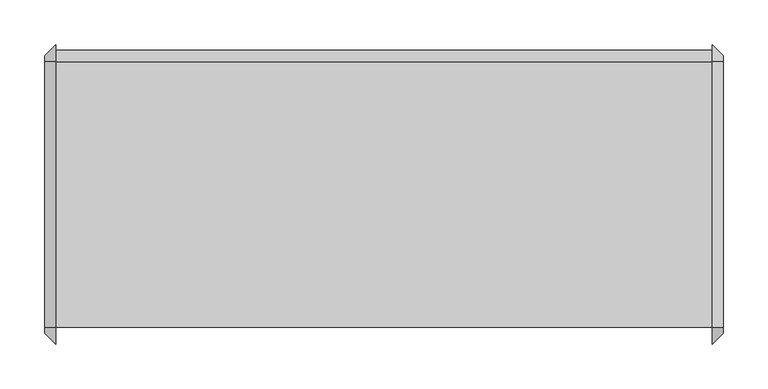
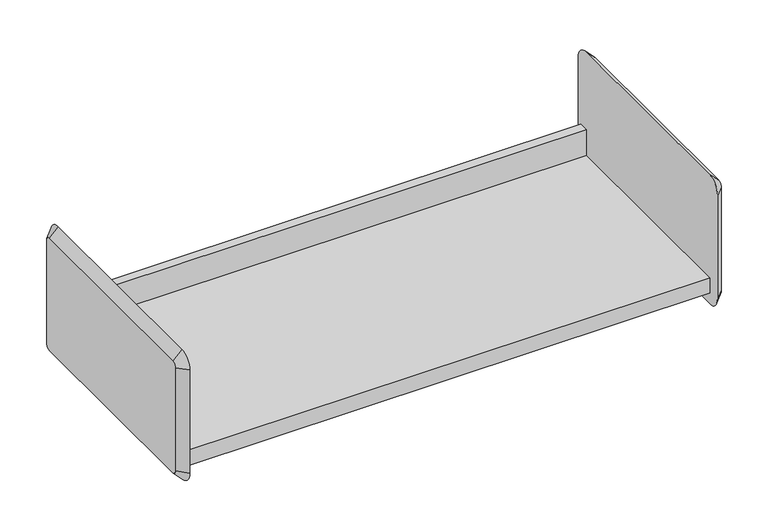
"""IFC4 building model written with IfcOpenShell, lengths in millimetres: furniture geometry."""

from ifc_helpers import new_model, si_unit, frame, origin, place, context, project, spatial, polyline, circle_curve, outline, extrude, source, transform, mapped, element, save
from ifc_brep_helpers import plane_surface, revolved_surface, advanced_brep


def furniture_7e3bf245(model_context):
    return source(origin(), model_context, "Body", "SolidModel", [
        extrude(outline(polyline([(-136.525, 1270.0), (161.925, 1270.0), (161.925, 1308.1), (174.625, 1308.1), (174.625, 1304.925), (165.1, 1304.925), (165.1, 1266.825), (-133.35, 1266.825), (-133.35, 1247.775), (-136.525, 1247.775), (-136.525, 1270.0)])), frame((-492.2420045, 0.0, 0.0), z_axis=(1.0, 0.0, 0.0), x_axis=(0.0, 1.0, 0.0)), (0.0, 0.0, 1.0), 736.6),
        advanced_brep(
        [(257.0579955, 161.925, 1409.7), (257.0579955, -136.525, 1409.7), (257.0579955, -142.875, 1403.35), (257.0579955, -142.875, 1250.95), (257.0579955, -136.525, 1244.6), (257.0579955, 161.925, 1244.6), (257.0579955, 168.275, 1250.95), (257.0579955, 168.275, 1403.35), (244.3579955, 161.925, 1422.4), (244.3579955, 180.975, 1403.35), (244.3579955, 180.975, 1250.95), (244.3579955, 161.925, 1231.9), (244.3579955, -136.525, 1231.9), (244.3579955, -155.575, 1250.95), (244.3579955, -155.575, 1403.35), (244.3579955, -136.525, 1422.4)],
        [
            (0, 1),
            (1, 2, circle_curve(frame((257.0579955, -136.525, 1403.35), z_axis=(1.0, 2.0730084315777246e-12, -2.1529444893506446e-12), x_axis=(2.15291077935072e-12, 0.0, 1.0)), 6.35)),
            (2, 3),
            (3, 4, circle_curve(frame((257.0579955, -136.525, 1250.95), z_axis=(1.0, 2.0596857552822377e-12, 2.06767936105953e-12), x_axis=(2.059647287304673e-12, -1.0, 0.0)), 6.35)),
            (4, 5),
            (5, 6, circle_curve(frame((257.0579955, 161.925, 1250.95), z_axis=(1.0, 2.0889956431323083e-12, -2.0889956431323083e-12), x_axis=(-2.0890080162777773e-12, 0.0, -1.0)), 6.35)),
            (6, 7),
            (7, 0, circle_curve(frame((257.0579955, 161.925, 1403.35), z_axis=(1.0, 2.0756729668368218e-12, 2.003730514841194e-12), x_axis=(-2.0756622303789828e-12, 1.0, 0.0)), 6.35)),
            (8, 9, circle_curve(frame((244.3579955, 161.925, 1403.35), z_axis=(-1.0, -2.0756729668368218e-12, -2.003730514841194e-12), x_axis=(-2.0756622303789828e-12, 1.0, 0.0)), 19.05)),
            (9, 10),
            (10, 11, circle_curve(frame((244.3579955, 161.925, 1250.95), z_axis=(-1.0, -2.0889956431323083e-12, 2.0889956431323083e-12), x_axis=(-2.0890080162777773e-12, 0.0, -1.0)), 19.05)),
            (11, 12),
            (12, 13, circle_curve(frame((244.3579955, -136.525, 1250.95), z_axis=(-1.0, -2.0596857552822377e-12, -2.06767936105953e-12), x_axis=(2.059647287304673e-12, -1.0, 0.0)), 19.05)),
            (13, 14),
            (14, 15, circle_curve(frame((244.3579955, -136.525, 1403.35), z_axis=(-1.0, -2.0730084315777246e-12, 2.1529444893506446e-12), x_axis=(2.15291077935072e-12, 0.0, 1.0)), 19.05)),
            (15, 8),
            (15, 1),
            (0, 8),
            (14, 2),
            (13, 3),
            (12, 4),
            (11, 5),
            (10, 6),
            (9, 7),
        ],
        [
            plane_surface(frame((257.0579955, 12.7, 1327.15), z_axis=(1.0, 0.0, 0.0), x_axis=(0.0, -1.0, 0.0))),
            plane_surface(frame((244.3579955, 12.7, 1327.15), z_axis=(-1.0, 0.0, 0.0), x_axis=(0.0, -1.0, 0.0))),
            plane_surface(frame((244.3579955, 12.7, 1422.4), z_axis=(0.7071067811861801, 0.0, 0.707106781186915), x_axis=(0.0, -1.0, 0.0))),
            revolved_surface(polyline([(257.0579955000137, -136.525, 1409.6999999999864), (244.3579955, -136.525, 1422.4)]), (263.4079955, -136.525, 1403.35), (-1.0, -2.0730084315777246e-12, 2.1529444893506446e-12)),
            plane_surface(frame((244.3579955, -155.575, 1327.15), z_axis=(0.7071067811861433, -0.7071067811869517, 0.0), x_axis=(0.0, 0.0, -1.0))),
            revolved_surface(polyline([(257.0579955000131, -142.87499999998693, 1250.95), (244.35799549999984, -155.57500000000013, 1250.95)]), (263.4079955, -136.525, 1250.95), (-1.0, -2.0596857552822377e-12, -2.06767936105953e-12)),
            plane_surface(frame((244.3579955, 12.7, 1231.9), z_axis=(0.7071067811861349, 0.0, -0.7071067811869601), x_axis=(0.0, 1.0, 0.0))),
            revolved_surface(polyline([(257.0579955, 161.925, 1244.6000000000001), (244.3579954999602, 161.925, 1231.8999999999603)]), (263.4079955, 161.925, 1250.95), (-1.0, -2.0889956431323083e-12, 2.0889956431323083e-12)),
            plane_surface(frame((244.3579955, 180.975, 1327.15), z_axis=(0.7071067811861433, 0.7071067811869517, 0.0), x_axis=(0.0, 0.0, 1.0))),
            revolved_surface(polyline([(257.0579955, 168.275, 1403.35), (244.35799549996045, 180.97500000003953, 1403.35)]), (263.4079955, 161.925, 1403.35), (-1.0, -2.0756729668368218e-12, -2.003730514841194e-12)),
        ],
        [
            (0, [[1, 2, 3, 4, 5, 6, 7, 8]]),
            (1, [[9, 10, 11, 12, 13, 14, 15, 16]]),
            (2, [[-16, 17, -1, 18]]),
            (3, [[-15, 19, -2, -17]]),
            (4, [[-14, 20, -3, -19]]),
            (5, [[-13, 21, -4, -20]]),
            (6, [[-12, 22, -5, -21]]),
            (7, [[-11, 23, -6, -22]]),
            (8, [[-10, 24, -7, -23]]),
            (9, [[-9, -18, -8, -24]]),
        ],
    ),
        advanced_brep(
        [(-504.9420045, -136.525, 1409.7), (-504.9420045, 161.925, 1409.7), (-504.9420045, 168.275, 1403.35), (-504.9420045, 168.275, 1250.95), (-504.9420045, 161.925, 1244.6), (-504.9420045, -136.525, 1244.6), (-504.9420045, -142.875, 1250.95), (-504.9420045, -142.875, 1403.35), (-492.2420045, -136.525, 1422.4), (-492.2420045, -155.575, 1403.35), (-492.2420045, -155.575, 1250.95), (-492.2420045, -136.525, 1231.9), (-492.2420045, 161.925, 1231.9), (-492.2420045, 180.975, 1250.95), (-492.2420045, 180.975, 1403.35), (-492.2420045, 161.925, 1422.4)],
        [
            (0, 1),
            (1, 2, circle_curve(frame((-504.9420045, 161.925, 1403.35), z_axis=(-1.0, 0.0, 0.0), x_axis=(0.0, 0.0, 1.0)), 6.35)),
            (2, 3),
            (3, 4, circle_curve(frame((-504.9420045, 161.925, 1250.95), z_axis=(-1.0, 0.0, 0.0), x_axis=(0.0, 1.0, 0.0)), 6.35)),
            (4, 5),
            (5, 6, circle_curve(frame((-504.9420045, -136.525, 1250.95), z_axis=(-1.0, 0.0, 0.0), x_axis=(0.0, 0.0, -1.0)), 6.35)),
            (6, 7),
            (7, 0, circle_curve(frame((-504.9420045, -136.525, 1403.35), z_axis=(-1.0, 0.0, 0.0), x_axis=(0.0, -1.0, 0.0)), 6.35)),
            (8, 9, circle_curve(frame((-492.2420045, -136.525, 1403.35), z_axis=(1.0, 0.0, 0.0), x_axis=(0.0, -1.0, 0.0)), 19.05)),
            (9, 10),
            (10, 11, circle_curve(frame((-492.2420045, -136.525, 1250.95), z_axis=(1.0, 0.0, 0.0), x_axis=(0.0, 0.0, -1.0)), 19.05)),
            (11, 12),
            (12, 13, circle_curve(frame((-492.2420045, 161.925, 1250.95), z_axis=(1.0, 0.0, 0.0), x_axis=(0.0, 1.0, 0.0)), 19.05)),
            (13, 14),
            (14, 15, circle_curve(frame((-492.2420045, 161.925, 1403.35), z_axis=(1.0, 0.0, 0.0), x_axis=(0.0, 0.0, 1.0)), 19.05)),
            (15, 8),
            (15, 1),
            (0, 8),
            (14, 2),
            (13, 3),
            (12, 4),
            (11, 5),
            (10, 6),
            (9, 7),
        ],
        [
            plane_surface(frame((-504.9420045, 12.7, 1327.15), z_axis=(-1.0, 0.0, 0.0), x_axis=(0.0, -1.0, 0.0))),
            plane_surface(frame((-492.2420045, 12.7, 1327.15), z_axis=(1.0, 0.0, 0.0), x_axis=(0.0, -1.0, 0.0))),
            plane_surface(frame((-492.2420045, 12.7, 1422.4), z_axis=(-0.7071067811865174, 0.0, 0.7071067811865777), x_axis=(0.0, 1.0, 0.0))),
            revolved_surface(polyline([(-504.9420045, 161.925, 1409.7), (-492.2420045, 161.925, 1422.4)]), (-511.2920045, 161.925, 1403.35), (1.0, 0.0, 0.0)),
            plane_surface(frame((-492.2420045, 180.975, 1327.15), z_axis=(-0.7071067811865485, 0.7071067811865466, 0.0), x_axis=(0.0, 0.0, -1.0))),
            revolved_surface(polyline([(-504.9420045, 168.27500000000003, 1250.95), (-492.2420045, 180.975, 1250.95)]), (-511.2920045, 161.925, 1250.95), (1.0, 0.0, 0.0)),
            plane_surface(frame((-492.2420045, 12.7, 1231.9), z_axis=(-0.7071067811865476, 0.0, -0.7071067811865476), x_axis=(0.0, -1.0, 0.0))),
            revolved_surface(polyline([(-504.9420045, -136.525, 1244.6000000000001), (-492.2420045, -136.525, 1231.9)]), (-511.2920045, -136.525, 1250.95), (1.0, 0.0, 0.0)),
            plane_surface(frame((-492.2420045, -155.575, 1327.15), z_axis=(-0.7071067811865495, -0.7071067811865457, 0.0), x_axis=(0.0, 0.0, 1.0))),
            revolved_surface(polyline([(-504.9420045, -142.87500000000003, 1403.35), (-492.2420045, -155.575, 1403.35)]), (-511.2920045, -136.525, 1403.35), (1.0, 0.0, 0.0)),
        ],
        [
            (0, [[1, 2, 3, 4, 5, 6, 7, 8]]),
            (1, [[9, 10, 11, 12, 13, 14, 15, 16]]),
            (2, [[-16, 17, -1, 18]]),
            (3, [[-15, 19, -2, -17]]),
            (4, [[-14, 20, -3, -19]]),
            (5, [[-13, 21, -4, -20]]),
            (6, [[-12, 22, -5, -21]]),
            (7, [[-11, 23, -6, -22]]),
            (8, [[-10, 24, -7, -23]]),
            (9, [[-9, -18, -8, -24]]),
        ],
    ),
    ])


if __name__ == "__main__":
    model = new_model("IFC4")
    model_context = context("Model", 3, world=origin())
    ifc_project = project(units=[si_unit("LENGTHUNIT", "METRE", prefix="MILLI")], contexts=[model_context])
    site = spatial("IfcSite", under=ifc_project)
    building = spatial("IfcBuilding", under=site)
    placement = place(None, origin())
    furniture_shape = furniture_7e3bf245(model_context)
    element("IfcFurniture", 1, ObjectType="HermanMiller_ActionOffice_A3220_B-StyleStorageDisplay : Shelf 13\"D x 30\"W", at=placement, inside=building, context=model_context, shape_type="MappedRepresentation", body=[
        mapped(furniture_shape, transform((0.0, 0.0, 0.0), x_axis=(1.0, 0.0, 0.0), y_axis=(0.0, 1.0, 0.0), z_axis=(0.0, 0.0, 1.0))),
    ])
    save(model, "model.ifc")
